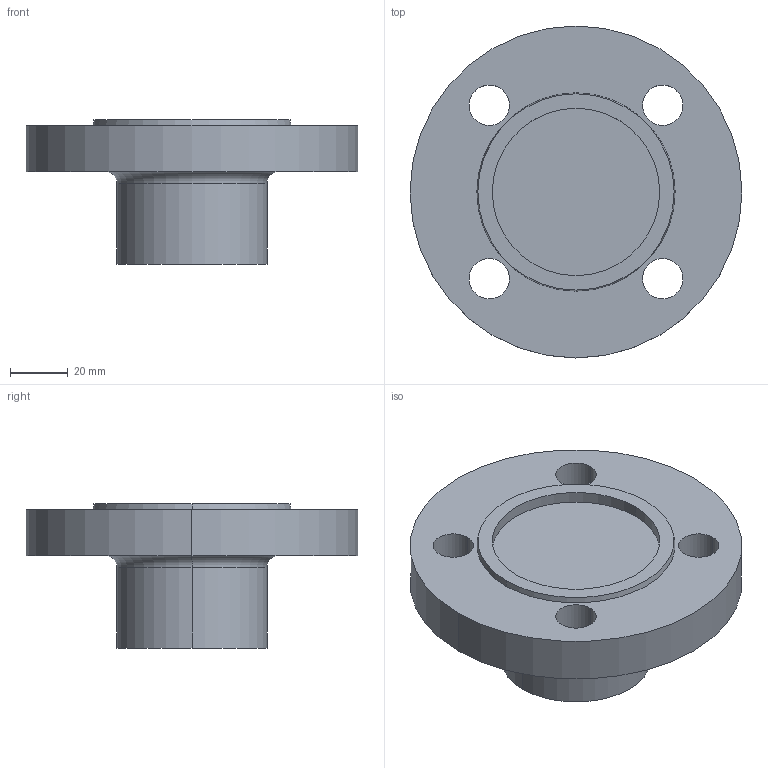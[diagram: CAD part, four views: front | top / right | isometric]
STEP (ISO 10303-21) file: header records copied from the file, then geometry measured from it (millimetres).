
FILE_DESCRIPTION (( 'STEP AP214' ), '1' );
FILE_NAME ('PN40 DN25 Type 21(i) - Type F Face.STEP', '2018-12-29T20:17:51', ( '' ), ( '' ), 'SwSTEP 2.0', 'SolidWorks 2019', '' );
FILE_SCHEMA (( 'AUTOMOTIVE_DESIGN' ));
Length unit declared in the file: millimetre
Products named in the file (1): PN40 DN25 Type 21(i) - Type F Face
Bounding box: 115 x 115 x 50 mm (x, y, z)
Volume: 221648 mm3; surface area: 34181.2 mm2
Topology: 1 solids, 1 shells, 23 faces, 52 edges, 34 vertices
Faces by surface type: cylinder 14, plane 5, torus 2, cone 2
Entity records: 716 total; most frequent: DIRECTION 136, CARTESIAN_POINT 110, ORIENTED_EDGE 104, AXIS2_PLACEMENT_3D 60, EDGE_CURVE 52, CIRCLE 36, VERTEX_POINT 34, EDGE_LOOP 34
